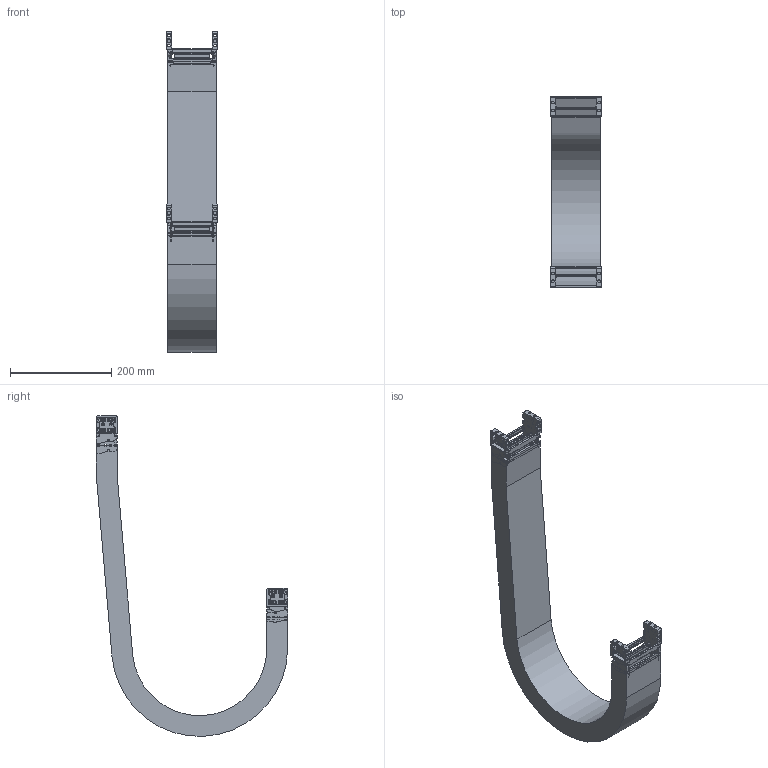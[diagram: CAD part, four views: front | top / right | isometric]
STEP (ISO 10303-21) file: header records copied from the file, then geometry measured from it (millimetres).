
FILE_DESCRIPTION((''),'2;1');
FILE_NAME('KST-30080-150_ASM','2017-12-06T',('KUNI004K'),(''),'PRO/ENGINEER BY PARAMETRIC TECHNOLOGY CORPORATION, 2015200','PRO/ENGINEER BY PARAMETRIC TECHNOLOGY CORPORATION, 2015200','');
FILE_SCHEMA(('AUTOMOTIVE_DESIGN { 1 0 10303 214 1 1 1 1 }'));
Length unit declared in the file: millimetre
Products named in the file (13): 30FBR; 30FBL; 25080C; 30FB_W080_ASM; 30150R; 30150L; 25080H; KST30080-150_1_ASM; KST30080_R150_BODY; 30MBR; 30MBL; 30MB_W080_ASM; KST-30080-150_ASM
Assembly tree (19 placements, depth 3):
  KST-30080-150_ASM
    30FB_W080_ASM
      30FBR
      30FBL
      25080C  x2
    KST30080-150_1_ASM  x2
      30150R
      30150L
      25080C
      25080H
    KST30080_R150_BODY
    30MB_W080_ASM
      30MBR
      30MBL
      25080C  x2
Bounding box: 100 x 377 x 632.14 mm (x, y, z)
Volume: 1487830.2 mm3; surface area: 698359.4 mm2
Topology: 21 solids, 21 shells, 2716 faces, 7502 edges, 4848 vertices
Faces by surface type: plane 1410, cylinder 962, bspline 216, torus 64, sphere 64
Entity records: 71904 total; most frequent: CARTESIAN_POINT 15078, ORIENTED_EDGE 7696, DIRECTION 6858, PRESENTATION_STYLE_ASSIGNMENT 5220, STYLED_ITEM 5220, CURVE_STYLE 3848, EDGE_CURVE 3848, VERTEX_POINT 2512
